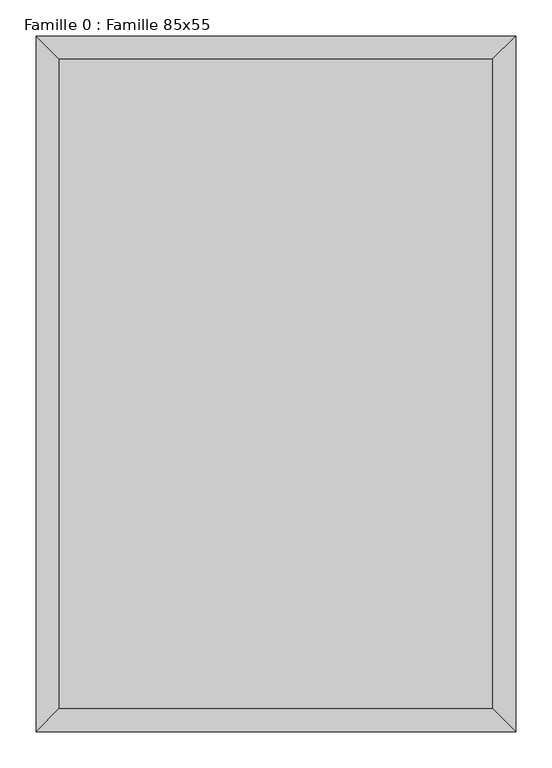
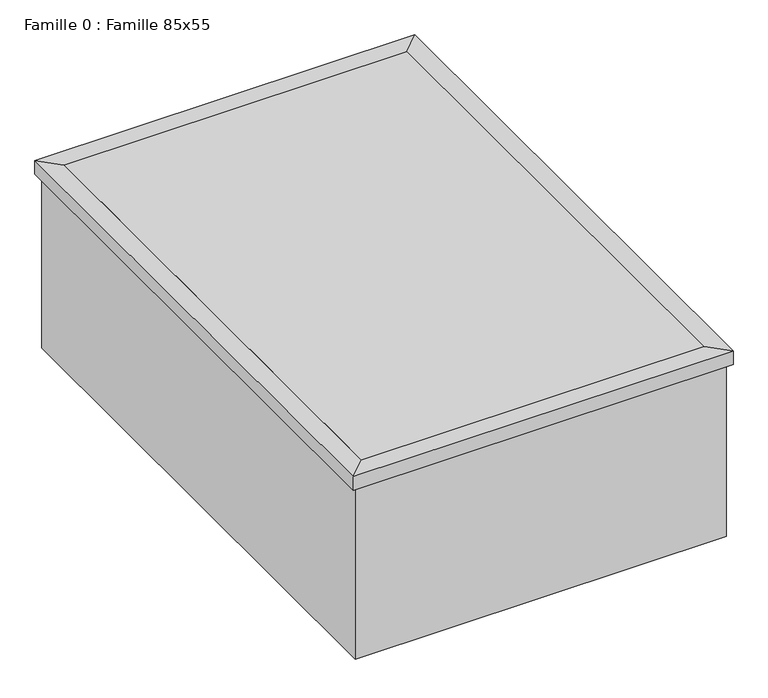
"""IFC4 building model written with IfcOpenShell, lengths in millimetres: proxy geometry, Famille 0 : Famille 85x55."""

import ifcopenshell
import ifcopenshell.guid

model = None  # the IFC model being written
_history = None  # IfcOwnerHistory: only IFC2X3 demands one
_inside = {}  # id of a spatial element -> (the spatial element, [elements in it])
_under = {}  # id of a project, library or spatial element -> (it, [spatial elements below it])
_declared = {}  # id of a project -> (the project, [libraries it declares])
_typed = {}  # id of a type object -> (the type object, [elements of that type])
_made_of = {}  # id of a material, layer set ... -> (it, [elements and type objects made of it])


def new_model(schema):
    """Start an empty IFC model of exactly this schema.

    Asked for "IFC4X3", IfcOpenShell would pick the latest addendum, in which some entities
    have other attributes; the version numbers below select the first issue.
    IFC2X3 requires an IfcOwnerHistory on every rooted entity: one is made here for all.
    """
    global model, _history
    if schema == "IFC4X3":
        model = ifcopenshell.file(schema_version=(4, 3, 0, 0))
    else:
        model = ifcopenshell.file(schema=schema)
    _inside.clear()
    _under.clear()
    _declared.clear()
    _typed.clear()
    _made_of.clear()
    _history = None
    if model.schema == "IFC2X3":
        org = make("IfcOrganization", Name="unknown")
        user = make(
            "IfcPersonAndOrganization",
            ThePerson=make("IfcPerson", FamilyName="unknown"),
            TheOrganization=org,
        )
        app = make(
            "IfcApplication",
            ApplicationDeveloper=org,
            Version="unknown",
            ApplicationFullName="unknown",
            ApplicationIdentifier="unknown",
        )
        _history = make(
            "IfcOwnerHistory",
            OwningUser=user,
            OwningApplication=app,
            ChangeAction="ADDED",
            CreationDate=0,
        )
    return model


def make(cls, **values):
    """One entity of the class cls with the attributes given. An attribute that is None is left unset."""
    return model.create_entity(
        cls, **{name: value for name, value in values.items() if value is not None}
    )


def rooted(cls, **values):
    """An entity with a GlobalId (a new one), such as an element, a storey or a relation."""
    return make(cls, GlobalId=ifcopenshell.guid.new(), OwnerHistory=_history, **values)


def si_unit(unit_type, name, prefix=None):
    """IfcSIUnit, for example si_unit("LENGTHUNIT", "METRE", prefix="MILLI")."""
    return make("IfcSIUnit", UnitType=unit_type, Prefix=prefix, Name=name)


def assignment(units):
    """IfcUnitAssignment: the units of a project."""
    return None if units is None else make("IfcUnitAssignment", Units=units)


def point(xyz):
    """IfcCartesianPoint."""
    return None if xyz is None else make("IfcCartesianPoint", Coordinates=xyz)


def direction(xyz):
    """IfcDirection."""
    return None if xyz is None else make("IfcDirection", DirectionRatios=xyz)


def frame(location, z_axis=None, x_axis=None):
    """IfcAxis2Placement3D, a coordinate frame: its origin and axes. An axis left out is left unset."""
    return make(
        "IfcAxis2Placement3D",
        Location=point(location),
        Axis=direction(z_axis),
        RefDirection=direction(x_axis),
    )


def origin():
    """The frame at (0, 0, 0) with its axes left unset."""
    return frame((0.0, 0.0, 0.0))


def place(relative_to, where):
    """IfcLocalPlacement: puts the frame where relative to a parent placement (None: the world)."""
    return make(
        "IfcLocalPlacement", PlacementRelTo=relative_to, RelativePlacement=where
    )


def context(
    kind, dimensions, precision=None, world=None, true_north=None, identifier=None
):
    """IfcGeometricRepresentationContext, for example the 3D "Model" context."""
    return make(
        "IfcGeometricRepresentationContext",
        ContextIdentifier=identifier,
        ContextType=kind,
        CoordinateSpaceDimension=dimensions,
        Precision=precision,
        WorldCoordinateSystem=world,
        TrueNorth=true_north,
    )


def project(units=None, contexts=None):
    """IfcProject with its units and contexts."""
    return rooted(
        "IfcProject",
        Name="project",
        RepresentationContexts=contexts,
        UnitsInContext=assignment(units),
    )


def spatial(cls, under=None, at=None, **own):
    """A site, building, storey or space (cls), placed at a placement, below another one or the project."""
    s = rooted(cls, ObjectPlacement=at, **own)
    if under is not None:
        _under.setdefault(under.id(), (under, []))[1].append(s)
    return s


def polyline(points):
    """IfcPolyline through the points."""
    return make("IfcPolyline", Points=[point(p) for p in points])


def outline(outer, holes=None, kind="AREA"):
    """IfcArbitraryClosedProfileDef: a profile drawn as a closed curve; with holes, ...WithVoids."""
    if holes is None:
        return make("IfcArbitraryClosedProfileDef", ProfileType=kind, OuterCurve=outer)
    return make(
        "IfcArbitraryProfileDefWithVoids",
        ProfileType=kind,
        OuterCurve=outer,
        InnerCurves=holes,
    )


def extrude(swept, where, along, depth):
    """IfcExtrudedAreaSolid: the profile swept, set in the frame where, extruded along a direction by depth."""
    return make(
        "IfcExtrudedAreaSolid",
        SweptArea=swept,
        Position=where,
        ExtrudedDirection=direction(along),
        Depth=depth,
    )


def faces_of(points, faces, orient=None, outer=None):
    """IfcFace entities. A face is a list of loops; a loop is a list of indices into points, from 0.

    orient and outer hold one flag for each loop. By default every Orientation is true, the
    first loop of a face is its IfcFaceOuterBound and the others are IfcFaceBound.
    """
    made = []
    for i, loops in enumerate(faces):
        bounds = []
        for j, loop in enumerate(loops):
            is_outer = j == 0 if outer is None else outer[i][j]
            bounds.append(
                make(
                    "IfcFaceOuterBound" if is_outer else "IfcFaceBound",
                    Bound=make("IfcPolyLoop", Polygon=[points[k] for k in loop]),
                    Orientation=True if orient is None else orient[i][j],
                )
            )
        made.append(make("IfcFace", Bounds=bounds))
    return made


def faceted_brep(points, faces, orient=None, outer=None, voids=None):
    """IfcFacetedBrep: a solid bounded by flat faces; with voids (closed shells), ...WithVoids."""
    shared = [point(p) for p in points]
    hull = make("IfcClosedShell", CfsFaces=faces_of(shared, faces, orient, outer))
    if voids is None:
        return make("IfcFacetedBrep", Outer=hull)
    return make(
        "IfcFacetedBrepWithVoids",
        Outer=hull,
        Voids=[
            make(cls, CfsFaces=faces_of(shared, fs, o, b)) for cls, fs, o, b in voids
        ],
    )


def shape(context_of_items, identifier, shape_type, items):
    """IfcShapeRepresentation: the items that make up one representation, for example the "Body"."""
    return make(
        "IfcShapeRepresentation",
        ContextOfItems=context_of_items,
        RepresentationIdentifier=identifier,
        RepresentationType=shape_type,
        Items=items,
    )


def source(mapping_origin, context_of_items, identifier, shape_type, items):
    """IfcRepresentationMap: a shape defined once, which mapped items show again and again."""
    return make(
        "IfcRepresentationMap",
        MappingOrigin=mapping_origin,
        MappedRepresentation=shape(context_of_items, identifier, shape_type, items),
    )


def transform(
    local_origin,
    x_axis=None,
    y_axis=None,
    z_axis=None,
    scale=None,
    scale2=None,
    scale3=None,
    uniform=True,
):
    """IfcCartesianTransformationOperator3D, or its non-uniform kind. x_axis, y_axis, z_axis: its Axis1, 2, 3."""
    if uniform:
        return make(
            "IfcCartesianTransformationOperator3D",
            Axis1=direction(x_axis),
            Axis2=direction(y_axis),
            LocalOrigin=point(local_origin),
            Scale=scale,
            Axis3=direction(z_axis),
        )
    return make(
        "IfcCartesianTransformationOperator3DnonUniform",
        Axis1=direction(x_axis),
        Axis2=direction(y_axis),
        LocalOrigin=point(local_origin),
        Scale=scale,
        Axis3=direction(z_axis),
        Scale2=scale2,
        Scale3=scale3,
    )


def mapped(mapping_source, mapping_target):
    """IfcMappedItem: shows the shape of a source again, moved by a transform."""
    return make(
        "IfcMappedItem", MappingSource=mapping_source, MappingTarget=mapping_target
    )


def made_of(thing, what):
    """Note that an element or type object is made of a material, layer set ...; save() writes the relation."""
    if what is not None:
        _made_of.setdefault(what.id(), (what, []))[1].append(thing)
    return thing


def element(
    cls,
    number,
    at=None,
    inside=None,
    cuts=None,
    type_object=None,
    material=None,
    context=None,
    identifier="Body",
    shape_type=None,
    held_by="IfcProductDefinitionShape",
    body=None,
    shapes=None,
    **own,
):
    """One element of the class cls, such as IfcWall. Its Tag is "e" and its number.

    at: its placement. inside: the storey or other place that contains it. cuts: it is an
    opening in that element (IfcRelVoidsElement). A single representation is given by context,
    identifier, shape_type and body (its items); several are given by shapes. held_by: the class
    of the entity that holds the representations. save() writes the other relations.
    """
    e = rooted(cls, Tag="e%d" % number, ObjectPlacement=at, **own)
    if body is not None:
        shapes = [shape(context, identifier, shape_type, body)]
    if shapes is not None:
        e.Representation = make(held_by, Representations=shapes)
    if inside is not None:
        _inside.setdefault(inside.id(), (inside, []))[1].append(e)
    if cuts is not None:
        rooted(
            "IfcRelVoidsElement", RelatingBuildingElement=cuts, RelatedOpeningElement=e
        )
    if type_object is not None:
        _typed.setdefault(type_object.id(), (type_object, []))[1].append(e)
    return made_of(e, material)


def aggregate(whole, parts):
    """IfcRelAggregates: a whole, such as a stair, and the parts it consists of."""
    return rooted("IfcRelAggregates", RelatingObject=whole, RelatedObjects=parts)


def save(model, path):
    """Write the relations noted so far, then the file.

    IfcRelAggregates (storeys below a building ...), IfcRelContainedInSpatialStructure (elements
    in a storey), IfcRelDefinesByType, IfcRelAssociatesMaterial and IfcRelDeclares: one each for
    every whole, place, type object, material and project.
    """
    for whole, parts in _under.values():
        aggregate(whole, parts)
    for where, things in _inside.values():
        rooted(
            "IfcRelContainedInSpatialStructure",
            RelatedElements=things,
            RelatingStructure=where,
        )
    for kind, things in _typed.values():
        rooted("IfcRelDefinesByType", RelatedObjects=things, RelatingType=kind)
    for what, things in _made_of.values():
        rooted("IfcRelAssociatesMaterial", RelatedObjects=things, RelatingMaterial=what)
    for by, libraries in _declared.values():
        rooted("IfcRelDeclares", RelatingContext=by, RelatedDefinitions=libraries)
    model.write(path)


def famille_0_famille_85x55_e7b3e48d(model_context):
    return source(origin(), model_context, "Body", "SolidModel", [
        extrude(outline(polyline([(300.0, -450.0), (-300.0, -450.0), (-300.0, 450.0), (300.0, 450.0), (300.0, -450.0)])), frame((0.0, 0.0, 175.9914971), z_axis=(0.0, 0.0, 1.0), x_axis=(1.0, 0.0, 0.0)), (0.0, 0.0, 1.0), 19.1625783),
        faceted_brep([(-300.0, -450.0, 195.1540754), (-332.5, -482.5, 195.1540754), (332.5, -482.5, 195.1540754), (300.0, -450.0, 195.1540754), (-275.0, -425.0, -150.0), (-275.0, -425.0, 175.9914971), (275.0, -425.0, 175.9914971), (275.0, -425.0, -150.0), (-325.0, -475.0, -150.0), (325.0, -475.0, -150.0), (332.5, 482.5, 195.1540754), (300.0, 450.0, 195.1540754), (275.0, 425.0, 175.9914971), (275.0, 425.0, -150.0), (325.0, 475.0, -150.0), (-332.5, 482.5, 195.1540754), (-300.0, 450.0, 195.1540754), (-275.0, 425.0, 175.9914971), (-275.0, 425.0, -150.0), (-325.0, 475.0, -150.0), (-332.5, -482.5, 170.0), (-325.0, -475.0, 170.0), (325.0, -475.0, 170.0), (332.5, -482.5, 170.0), (-300.0, -450.0, 175.9914971), (300.0, -450.0, 175.9914971), (325.0, 475.0, 170.0), (332.5, 482.5, 170.0), (300.0, 450.0, 175.9914971), (-325.0, 475.0, 170.0), (-332.5, 482.5, 170.0), (-300.0, 450.0, 175.9914971)], [[[0, 1, 2, 3]], [[4, 5, 6, 7]], [[8, 4, 7, 9]], [[3, 2, 10, 11]], [[7, 6, 12, 13]], [[9, 7, 13, 14]], [[11, 10, 15, 16]], [[13, 12, 17, 18]], [[14, 13, 18, 19]], [[16, 15, 1, 0]], [[18, 17, 5, 4]], [[19, 18, 4, 8]], [[20, 21, 22, 23]], [[24, 0, 3, 25]], [[5, 24, 25, 6]], [[23, 22, 26, 27]], [[25, 3, 11, 28]], [[6, 25, 28, 12]], [[27, 26, 29, 30]], [[28, 11, 16, 31]], [[12, 28, 31, 17]], [[30, 29, 21, 20]], [[31, 16, 0, 24]], [[17, 31, 24, 5]], [[21, 8, 9, 22]], [[1, 20, 23, 2]], [[22, 9, 14, 26]], [[2, 23, 27, 10]], [[26, 14, 19, 29]], [[10, 27, 30, 15]], [[29, 19, 8, 21]], [[15, 30, 20, 1]]]),
    ])


if __name__ == "__main__":
    model = new_model("IFC4")
    model_context = context("Model", 3, world=origin())
    ifc_project = project(units=[si_unit("LENGTHUNIT", "METRE", prefix="MILLI")], contexts=[model_context])
    site = spatial("IfcSite", under=ifc_project)
    building = spatial("IfcBuilding", under=site)
    placement = place(None, origin())
    famille_0_famille_85x55_shape = famille_0_famille_85x55_e7b3e48d(model_context)
    element("IfcBuildingElementProxy", 1, Name="Famille 0 : Famille 85x55", ObjectType="Famille 0 : Famille 85x55", at=placement, inside=building, context=model_context, shape_type="MappedRepresentation", body=[
        mapped(famille_0_famille_85x55_shape, transform((0.0, 0.0, 0.0), x_axis=(1.0, 0.0, 0.0), y_axis=(0.0, 1.0, 0.0), z_axis=(0.0, 0.0, 1.0))),
    ])
    save(model, "model.ifc")
